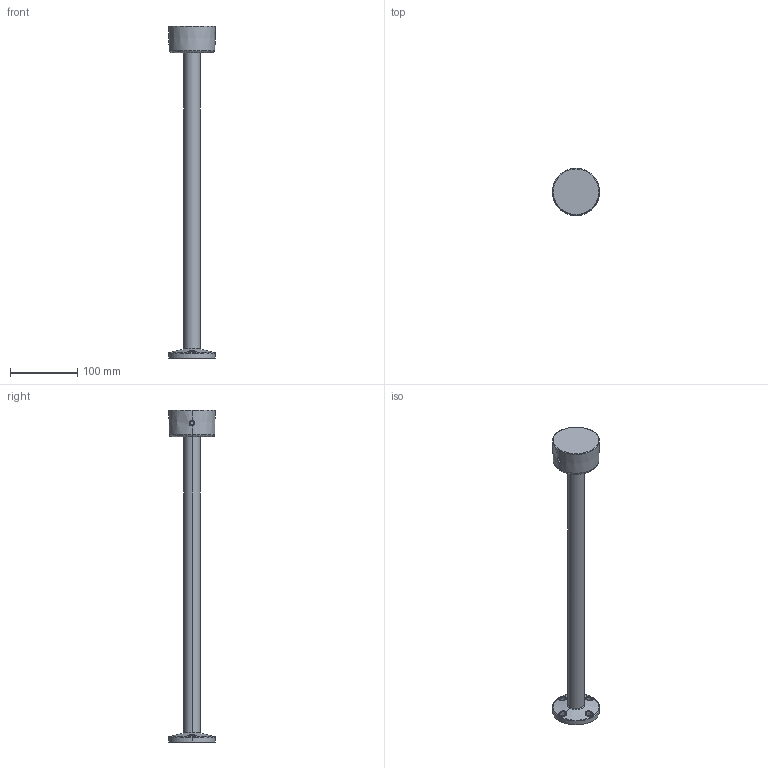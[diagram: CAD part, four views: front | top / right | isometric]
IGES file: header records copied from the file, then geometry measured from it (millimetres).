
Start section: IGES file generated by C3D Converter 1.6 translator by C3D Labs., translator version IGESOUT-5.1.
Global section: file name: HC:\Users\沓膼\OneDrive\Desktop\欙鵳醆TL70\鐕謽僗\扻豵鵨455.igs; preprocessor: 1.0; author: 沓膼,7; organization: Hunknown; date: -17760826:041848; units: millimetre
Bounding box: 70 x 70 x 495 mm (x, y, z)
Volume: 224859.5 mm3; surface area: 98878.2 mm2
Topology: 1 solids, 1 shells, 159 faces, 433 edges, 282 vertices
Faces by surface type: bspline 87, revolution 72
